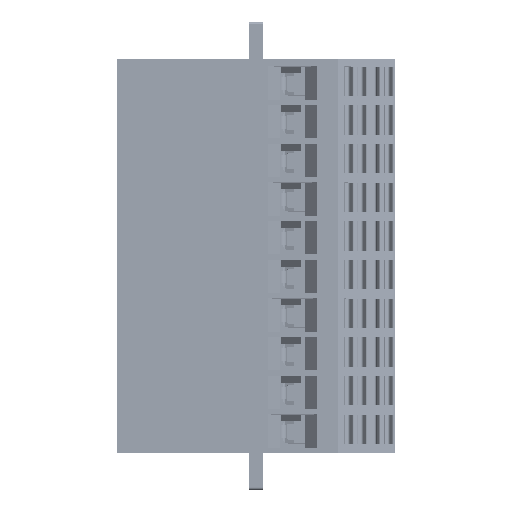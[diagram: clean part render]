
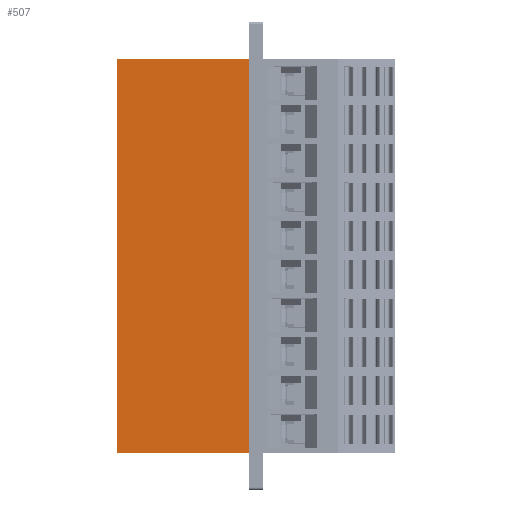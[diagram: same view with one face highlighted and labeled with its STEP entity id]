
A CAD part, top view. The second image highlights one B-rep face of the part: STEP entity #507.
In plain terms, the highlighted planar face has unit normal (0, 0, 1).
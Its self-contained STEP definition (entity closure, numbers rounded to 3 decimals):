
#507=ADVANCED_FACE('',(#144912),#144914,.T.);
#144912=FACE_BOUND('',#144913,.T.);
#144913=EDGE_LOOP('',(#260293,#260294,#260295,#260296));
#144914=PLANE('',#144915);
#144915=AXIS2_PLACEMENT_3D('',#144916,#144917,#144918);
#144916=CARTESIAN_POINT('',(0.,-71.1,9.35));
#144917=DIRECTION('',(0.,0.,1.));
#144918=DIRECTION('',(1.,0.,0.));
#260293=ORIENTED_EDGE('',*,*,#352211,.T.);
#260294=ORIENTED_EDGE('',*,*,#352210,.T.);
#260295=ORIENTED_EDGE('',*,*,#352212,.F.);
#260296=ORIENTED_EDGE('',*,*,#352213,.F.);
#352210=EDGE_CURVE('',#398486,#398488,#398490,.T.);
#352211=EDGE_CURVE('',#398491,#398486,#398492,.T.);
#352212=EDGE_CURVE('',#398493,#398488,#398494,.T.);
#352213=EDGE_CURVE('',#398491,#398493,#398495,.T.);
#398486=VERTEX_POINT('',#475642);
#398488=VERTEX_POINT('',#475646);
#398490=LINE('',#475650,#475651);
#398491=VERTEX_POINT('',#475653);
#398492=LINE('',#475654,#475655);
#398493=VERTEX_POINT('',#475657);
#398494=LINE('',#475658,#475659);
#398495=LINE('',#475661,#475662);
#475642=CARTESIAN_POINT('',(27.,-71.1,9.35));
#475646=CARTESIAN_POINT('',(27.,9.5,9.35));
#475650=CARTESIAN_POINT('',(27.,-71.1,9.35));
#475651=VECTOR('',#475652,1.);
#475652=DIRECTION('',(0.,1.,0.));
#475653=CARTESIAN_POINT('',(0.,-71.1,9.35));
#475654=CARTESIAN_POINT('',(0.,-71.1,9.35));
#475655=VECTOR('',#475656,1.);
#475656=DIRECTION('',(1.,0.,0.));
#475657=CARTESIAN_POINT('',(0.,9.5,9.35));
#475658=CARTESIAN_POINT('',(0.,9.5,9.35));
#475659=VECTOR('',#475660,1.);
#475660=DIRECTION('',(1.,0.,0.));
#475661=CARTESIAN_POINT('',(0.,-71.1,9.35));
#475662=VECTOR('',#475663,1.);
#475663=DIRECTION('',(0.,1.,0.));
